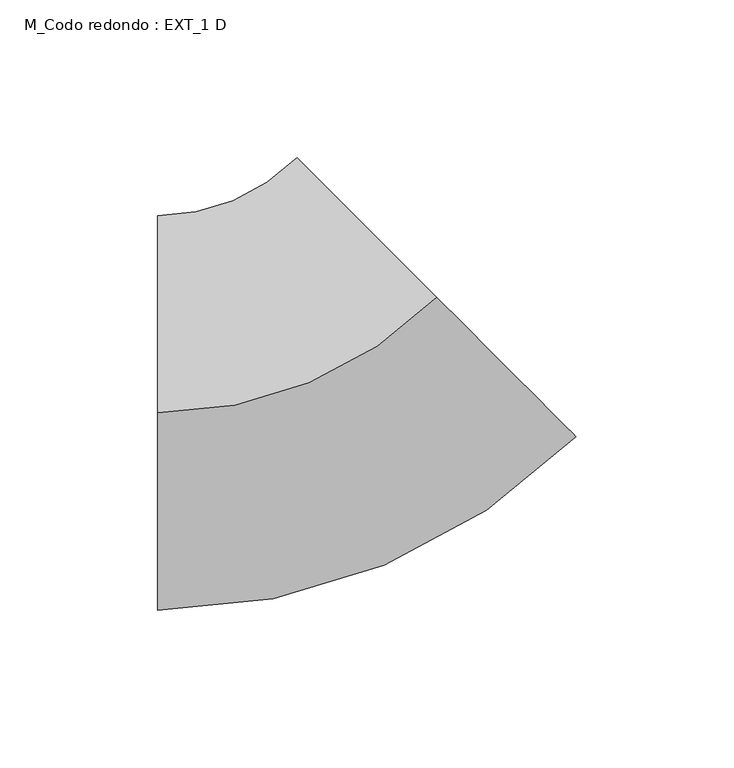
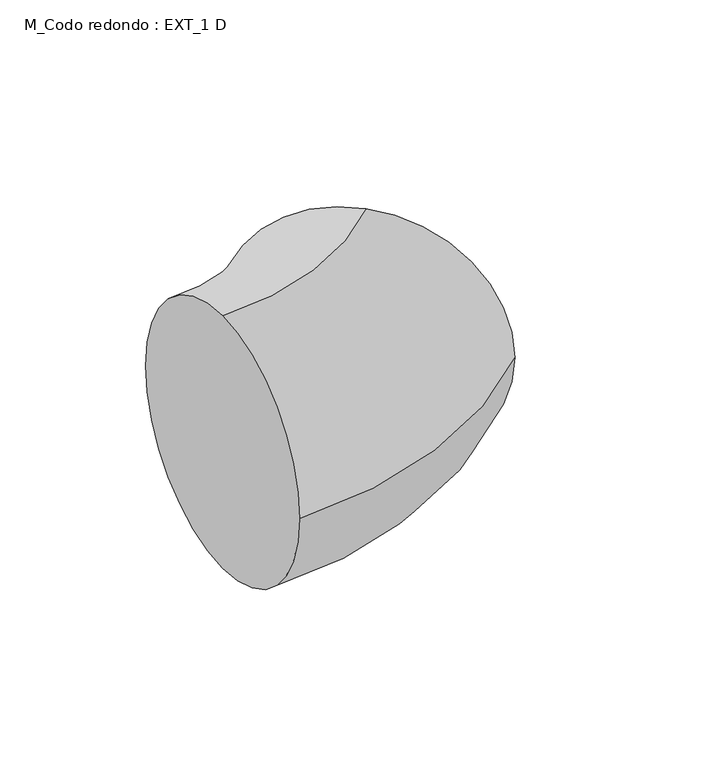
"""IFC4 building model written with IfcOpenShell, lengths in millimetres: duct fitting geometry, M_Codo redondo : EXT_1 D."""

from ifc_helpers import new_model, si_unit, point, frame, origin, place, context, project, spatial, circle_curve, ellipse_curve, trimmed, source, transform, mapped, element, save
from ifc_brep_helpers import plane_surface, revolved_surface, advanced_brep


def m_codo_redondo_ext_1_d_d88d4426(model_context):
    return source(origin(), model_context, "Body", "AdvancedBrep", [
        advanced_brep(
        [(-51.8102287, 0.0, 62.5), (-51.8102287, 62.5, 0.0), (-51.8102287, 0.0, -62.5), (-51.8102287, -62.5, 0.0), (36.6185842, 36.6521362, 62.5), (80.8329907, -7.5217957, 0.0), (36.6185842, 36.6521362, -62.5), (-7.5958222, 80.8260681, 0.0)],
        [
            (0, 1, circle_curve(frame((-51.8102287, 0.0, 0.0), z_axis=(-1.0, 0.0, 0.0), x_axis=(0.0, 1.0, 0.0)), 62.5)),
            (1, 2, circle_curve(frame((-51.8102287, 0.0, 0.0), z_axis=(-1.0, 0.0, 0.0), x_axis=(0.0, 1.0, 0.0)), 62.5)),
            (2, 3, circle_curve(frame((-51.8102287, 0.0, 0.0), z_axis=(-1.0, 0.0, 0.0), x_axis=(0.0, 1.0, 0.0)), 62.5)),
            (3, 0, circle_curve(frame((-51.8102287, 0.0, 0.0), z_axis=(-1.0, 0.0, 0.0), x_axis=(0.0, 1.0, 0.0)), 62.5)),
            (4, 5, circle_curve(frame((36.6185842, 36.6521362, 0.0), z_axis=(0.7067829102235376, 0.7074305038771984, 0.0), x_axis=(-0.7074305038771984, 0.7067829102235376, 0.0)), 62.5)),
            (5, 6, circle_curve(frame((36.6185842, 36.6521362, 0.0), z_axis=(0.7067829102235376, 0.7074305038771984, 0.0), x_axis=(-0.7074305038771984, 0.7067829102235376, 0.0)), 62.5)),
            (6, 7, circle_curve(frame((36.6185842, 36.6521362, 0.0), z_axis=(0.7067829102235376, 0.7074305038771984, 0.0), x_axis=(-0.7074305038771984, 0.7067829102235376, 0.0)), 62.5)),
            (7, 4, circle_curve(frame((36.6185842, 36.6521362, 0.0), z_axis=(0.7067829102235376, 0.7074305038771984, 0.0), x_axis=(-0.7074305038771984, 0.7067829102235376, 0.0)), 62.5)),
            (7, 1, circle_curve(frame((-51.8102287, 125.0, 0.0), z_axis=(0.0, 0.0, -1.0), x_axis=(0.0, -1.0, 0.0)), 62.5)),
            (0, 4, circle_curve(frame((-51.8102287, 125.0, 62.5), z_axis=(0.0, 0.0, 1.0), x_axis=(0.0, -1.0, 0.0)), 125.0)),
            (6, 2, circle_curve(frame((-51.8102287, 125.0, -62.5), z_axis=(0.0, 0.0, -1.0), x_axis=(0.0, -1.0, 0.0)), 125.0)),
            (5, 3, circle_curve(frame((-51.8102287, 125.0, 0.0), z_axis=(0.0, 0.0, -1.0), x_axis=(0.0, -1.0, 0.0)), 187.5)),
        ],
        [
            plane_surface(frame((-51.8102287, 0.0, 0.0), z_axis=(-1.0, 0.0, 0.0), x_axis=(0.0, 0.0, 1.0))),
            plane_surface(frame((36.6185842, 36.6521362, 0.0), z_axis=(0.7067829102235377, 0.7074305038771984, 0.0), x_axis=(0.0, 0.0, 1.0))),
            revolved_surface(trimmed(ellipse_curve(frame((-51.8102287, 0.0, 0.0), z_axis=(-1.0, 0.0, 0.0), x_axis=(0.0, 1.0, 0.0)), 62.5, 62.5), [point((-51.8102287, 0.0, 62.5))], [point((-51.8102287, 62.5, 0.0))], True, "CARTESIAN"), (-51.8102287, 125.0, 0.0), (0.0, 0.0, 1.0)),
            revolved_surface(trimmed(ellipse_curve(frame((-51.8102287, 0.0, 0.0), z_axis=(-1.0, 0.0, 0.0), x_axis=(0.0, 1.0, 0.0)), 62.5, 62.5), [point((-51.8102287, 62.5, 0.0))], [point((-51.8102287, 0.0, -62.5))], True, "CARTESIAN"), (-51.8102287, 125.0, 0.0), (0.0, 0.0, 1.0)),
            revolved_surface(trimmed(ellipse_curve(frame((-51.8102287, 0.0, 0.0), z_axis=(-1.0, 0.0, 0.0), x_axis=(0.0, 1.0, 0.0)), 62.5, 62.5), [point((-51.8102287, 0.0, -62.5))], [point((-51.8102287, -62.5, 0.0))], True, "CARTESIAN"), (-51.8102287, 125.0, 0.0), (0.0, 0.0, 1.0)),
            revolved_surface(trimmed(ellipse_curve(frame((-51.8102287, 0.0, 0.0), z_axis=(-1.0, 0.0, 0.0), x_axis=(0.0, 1.0, 0.0)), 62.5, 62.5), [point((-51.8102287, -62.5, 0.0))], [point((-51.8102287, 0.0, 62.5))], True, "CARTESIAN"), (-51.8102287, 125.0, 0.0), (0.0, 0.0, 1.0)),
        ],
        [
            (0, [[1, 2, 3, 4]]),
            (1, [[5, 6, 7, 8]]),
            (2, [[9, -1, 10, -8]]),
            (3, [[11, -2, -9, -7]]),
            (4, [[12, -3, -11, -6]]),
            (5, [[-10, -4, -12, -5]]),
        ],
    ),
    ])


if __name__ == "__main__":
    model = new_model("IFC4")
    model_context = context("Model", 3, world=origin())
    ifc_project = project(units=[si_unit("LENGTHUNIT", "METRE", prefix="MILLI")], contexts=[model_context])
    site = spatial("IfcSite", under=ifc_project)
    building = spatial("IfcBuilding", under=site)
    placement = place(None, origin())
    m_codo_redondo_ext_1_d_shape = m_codo_redondo_ext_1_d_d88d4426(model_context)
    element("IfcDuctFitting", 1, ObjectType="M_Codo redondo : EXT_1 D", at=placement, inside=building, context=model_context, shape_type="MappedRepresentation", body=[
        mapped(m_codo_redondo_ext_1_d_shape, transform((0.0, 0.0, 0.0), x_axis=(1.0, 0.0, 0.0), y_axis=(0.0, 1.0, 0.0), z_axis=(0.0, 0.0, 1.0))),
    ])
    save(model, "model.ifc")
